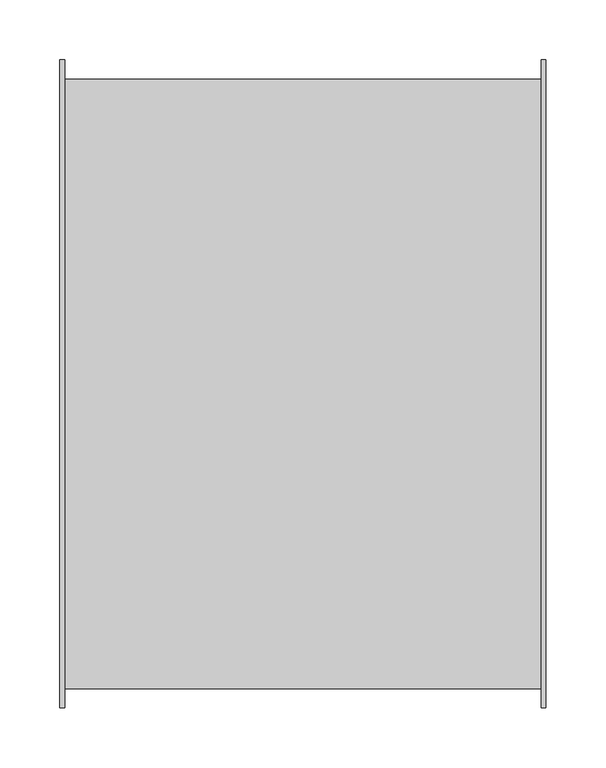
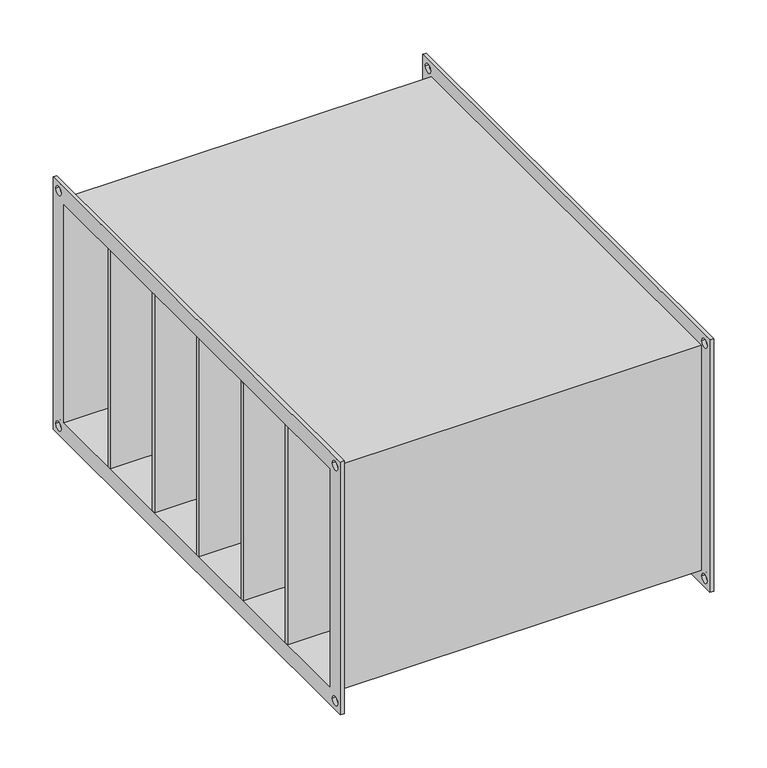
"""IFC4 building model written with IfcOpenShell, lengths in millimetres: damper geometry, СВ_ФильтрКарманныйУкороченный_КанальныйПрямоугольный_200-1000_SFPKU : SFPKU-500x250."""

import ifcopenshell
import ifcopenshell.guid

model = None  # the IFC model being written
_history = None  # IfcOwnerHistory: only IFC2X3 demands one
_inside = {}  # id of a spatial element -> (the spatial element, [elements in it])
_under = {}  # id of a project, library or spatial element -> (it, [spatial elements below it])
_declared = {}  # id of a project -> (the project, [libraries it declares])
_typed = {}  # id of a type object -> (the type object, [elements of that type])
_made_of = {}  # id of a material, layer set ... -> (it, [elements and type objects made of it])


def new_model(schema):
    """Start an empty IFC model of exactly this schema.

    Asked for "IFC4X3", IfcOpenShell would pick the latest addendum, in which some entities
    have other attributes; the version numbers below select the first issue.
    IFC2X3 requires an IfcOwnerHistory on every rooted entity: one is made here for all.
    """
    global model, _history
    if schema == "IFC4X3":
        model = ifcopenshell.file(schema_version=(4, 3, 0, 0))
    else:
        model = ifcopenshell.file(schema=schema)
    _inside.clear()
    _under.clear()
    _declared.clear()
    _typed.clear()
    _made_of.clear()
    _history = None
    if model.schema == "IFC2X3":
        org = make("IfcOrganization", Name="unknown")
        user = make(
            "IfcPersonAndOrganization",
            ThePerson=make("IfcPerson", FamilyName="unknown"),
            TheOrganization=org,
        )
        app = make(
            "IfcApplication",
            ApplicationDeveloper=org,
            Version="unknown",
            ApplicationFullName="unknown",
            ApplicationIdentifier="unknown",
        )
        _history = make(
            "IfcOwnerHistory",
            OwningUser=user,
            OwningApplication=app,
            ChangeAction="ADDED",
            CreationDate=0,
        )
    return model


def make(cls, **values):
    """One entity of the class cls with the attributes given. An attribute that is None is left unset."""
    return model.create_entity(
        cls, **{name: value for name, value in values.items() if value is not None}
    )


def rooted(cls, **values):
    """An entity with a GlobalId (a new one), such as an element, a storey or a relation."""
    return make(cls, GlobalId=ifcopenshell.guid.new(), OwnerHistory=_history, **values)


def si_unit(unit_type, name, prefix=None):
    """IfcSIUnit, for example si_unit("LENGTHUNIT", "METRE", prefix="MILLI")."""
    return make("IfcSIUnit", UnitType=unit_type, Prefix=prefix, Name=name)


def assignment(units):
    """IfcUnitAssignment: the units of a project."""
    return None if units is None else make("IfcUnitAssignment", Units=units)


def point(xyz):
    """IfcCartesianPoint."""
    return None if xyz is None else make("IfcCartesianPoint", Coordinates=xyz)


def direction(xyz):
    """IfcDirection."""
    return None if xyz is None else make("IfcDirection", DirectionRatios=xyz)


def frame(location, z_axis=None, x_axis=None):
    """IfcAxis2Placement3D, a coordinate frame: its origin and axes. An axis left out is left unset."""
    return make(
        "IfcAxis2Placement3D",
        Location=point(location),
        Axis=direction(z_axis),
        RefDirection=direction(x_axis),
    )


def origin():
    """The frame at (0, 0, 0) with its axes left unset."""
    return frame((0.0, 0.0, 0.0))


def place(relative_to, where):
    """IfcLocalPlacement: puts the frame where relative to a parent placement (None: the world)."""
    return make(
        "IfcLocalPlacement", PlacementRelTo=relative_to, RelativePlacement=where
    )


def context(
    kind, dimensions, precision=None, world=None, true_north=None, identifier=None
):
    """IfcGeometricRepresentationContext, for example the 3D "Model" context."""
    return make(
        "IfcGeometricRepresentationContext",
        ContextIdentifier=identifier,
        ContextType=kind,
        CoordinateSpaceDimension=dimensions,
        Precision=precision,
        WorldCoordinateSystem=world,
        TrueNorth=true_north,
    )


def project(units=None, contexts=None):
    """IfcProject with its units and contexts."""
    return rooted(
        "IfcProject",
        Name="project",
        RepresentationContexts=contexts,
        UnitsInContext=assignment(units),
    )


def spatial(cls, under=None, at=None, **own):
    """A site, building, storey or space (cls), placed at a placement, below another one or the project."""
    s = rooted(cls, ObjectPlacement=at, **own)
    if under is not None:
        _under.setdefault(under.id(), (under, []))[1].append(s)
    return s


def polyline(points):
    """IfcPolyline through the points."""
    return make("IfcPolyline", Points=[point(p) for p in points])


def circle_curve(where, radius):
    """IfcCircle in the frame where."""
    return make("IfcCircle", Position=where, Radius=radius)


def outline(outer, holes=None, kind="AREA"):
    """IfcArbitraryClosedProfileDef: a profile drawn as a closed curve; with holes, ...WithVoids."""
    if holes is None:
        return make("IfcArbitraryClosedProfileDef", ProfileType=kind, OuterCurve=outer)
    return make(
        "IfcArbitraryProfileDefWithVoids",
        ProfileType=kind,
        OuterCurve=outer,
        InnerCurves=holes,
    )


def extrude(swept, where, along, depth):
    """IfcExtrudedAreaSolid: the profile swept, set in the frame where, extruded along a direction by depth."""
    return make(
        "IfcExtrudedAreaSolid",
        SweptArea=swept,
        Position=where,
        ExtrudedDirection=direction(along),
        Depth=depth,
    )


def shape(context_of_items, identifier, shape_type, items):
    """IfcShapeRepresentation: the items that make up one representation, for example the "Body"."""
    return make(
        "IfcShapeRepresentation",
        ContextOfItems=context_of_items,
        RepresentationIdentifier=identifier,
        RepresentationType=shape_type,
        Items=items,
    )


def source(mapping_origin, context_of_items, identifier, shape_type, items):
    """IfcRepresentationMap: a shape defined once, which mapped items show again and again."""
    return make(
        "IfcRepresentationMap",
        MappingOrigin=mapping_origin,
        MappedRepresentation=shape(context_of_items, identifier, shape_type, items),
    )


def transform(
    local_origin,
    x_axis=None,
    y_axis=None,
    z_axis=None,
    scale=None,
    scale2=None,
    scale3=None,
    uniform=True,
):
    """IfcCartesianTransformationOperator3D, or its non-uniform kind. x_axis, y_axis, z_axis: its Axis1, 2, 3."""
    if uniform:
        return make(
            "IfcCartesianTransformationOperator3D",
            Axis1=direction(x_axis),
            Axis2=direction(y_axis),
            LocalOrigin=point(local_origin),
            Scale=scale,
            Axis3=direction(z_axis),
        )
    return make(
        "IfcCartesianTransformationOperator3DnonUniform",
        Axis1=direction(x_axis),
        Axis2=direction(y_axis),
        LocalOrigin=point(local_origin),
        Scale=scale,
        Axis3=direction(z_axis),
        Scale2=scale2,
        Scale3=scale3,
    )


def mapped(mapping_source, mapping_target):
    """IfcMappedItem: shows the shape of a source again, moved by a transform."""
    return make(
        "IfcMappedItem", MappingSource=mapping_source, MappingTarget=mapping_target
    )


def made_of(thing, what):
    """Note that an element or type object is made of a material, layer set ...; save() writes the relation."""
    if what is not None:
        _made_of.setdefault(what.id(), (what, []))[1].append(thing)
    return thing


def element(
    cls,
    number,
    at=None,
    inside=None,
    cuts=None,
    type_object=None,
    material=None,
    context=None,
    identifier="Body",
    shape_type=None,
    held_by="IfcProductDefinitionShape",
    body=None,
    shapes=None,
    **own,
):
    """One element of the class cls, such as IfcWall. Its Tag is "e" and its number.

    at: its placement. inside: the storey or other place that contains it. cuts: it is an
    opening in that element (IfcRelVoidsElement). A single representation is given by context,
    identifier, shape_type and body (its items); several are given by shapes. held_by: the class
    of the entity that holds the representations. save() writes the other relations.
    """
    e = rooted(cls, Tag="e%d" % number, ObjectPlacement=at, **own)
    if body is not None:
        shapes = [shape(context, identifier, shape_type, body)]
    if shapes is not None:
        e.Representation = make(held_by, Representations=shapes)
    if inside is not None:
        _inside.setdefault(inside.id(), (inside, []))[1].append(e)
    if cuts is not None:
        rooted(
            "IfcRelVoidsElement", RelatingBuildingElement=cuts, RelatedOpeningElement=e
        )
    if type_object is not None:
        _typed.setdefault(type_object.id(), (type_object, []))[1].append(e)
    return made_of(e, material)


def aggregate(whole, parts):
    """IfcRelAggregates: a whole, such as a stair, and the parts it consists of."""
    return rooted("IfcRelAggregates", RelatingObject=whole, RelatedObjects=parts)


def save(model, path):
    """Write the relations noted so far, then the file.

    IfcRelAggregates (storeys below a building ...), IfcRelContainedInSpatialStructure (elements
    in a storey), IfcRelDefinesByType, IfcRelAssociatesMaterial and IfcRelDeclares: one each for
    every whole, place, type object, material and project.
    """
    for whole, parts in _under.values():
        aggregate(whole, parts)
    for where, things in _inside.values():
        rooted(
            "IfcRelContainedInSpatialStructure",
            RelatedElements=things,
            RelatingStructure=where,
        )
    for kind, things in _typed.values():
        rooted("IfcRelDefinesByType", RelatedObjects=things, RelatingType=kind)
    for what, things in _made_of.values():
        rooted("IfcRelAssociatesMaterial", RelatedObjects=things, RelatingMaterial=what)
    for by, libraries in _declared.values():
        rooted("IfcRelDeclares", RelatingContext=by, RelatedDefinitions=libraries)
    model.write(path)


def plane_surface(at):
    """IfcPlane: the flat surface through the origin of the frame at, square to its z axis."""
    return make("IfcPlane", Position=at)


def revolved_surface(curve, axis_point, axis_direction):
    """IfcSurfaceOfRevolution: the curve turned about the line through axis_point along axis_direction."""
    return make(
        "IfcSurfaceOfRevolution",
        SweptCurve=make("IfcArbitraryOpenProfileDef", ProfileType="CURVE", Curve=curve),
        AxisPosition=make("IfcAxis1Placement", Location=point(axis_point), Axis=direction(axis_direction)),
    )


def advanced_brep(points, edges, surfaces, faces):
    """IfcAdvancedBrep: a solid bounded by faces that lie on surfaces and meet in shared edges.

    An edge is (start, end): straight between two places in points (the first is 0);
    or (start, end, curve); or (start, end, curve, False) where it runs against its curve.
    A face is (place in surfaces, loops), or (place, loops, False) where it looks against
    its surface's normal. A loop lists edges by number (the first is 1), with a minus sign
    where the edge is run from its end to its start. The first loop is the outer one.
    """
    corners = [point(p) for p in points]
    vertices = [make("IfcVertexPoint", VertexGeometry=c) for c in corners]
    made = []
    for start, end, *more in edges:
        made.append(
            make(
                "IfcEdgeCurve",
                EdgeStart=vertices[start],
                EdgeEnd=vertices[end],
                EdgeGeometry=more[0] if more else make("IfcPolyline", Points=[corners[start], corners[end]]),
                SameSense=more[1] if len(more) > 1 else True,
            )
        )
    hull = []
    for where, loops, *sense in faces:
        bounds = []
        for j, loop in enumerate(loops):
            ring = [make("IfcOrientedEdge", EdgeElement=made[abs(k) - 1], Orientation=k > 0) for k in loop]
            bounds.append(
                make(
                    "IfcFaceOuterBound" if j == 0 else "IfcFaceBound",
                    Bound=make("IfcEdgeLoop", EdgeList=ring),
                    Orientation=True,
                )
            )
        hull.append(make("IfcAdvancedFace", Bounds=bounds, FaceSurface=surfaces[where], SameSense=sense[0] if sense else True))
    return make("IfcAdvancedBrep", Outer=make("IfcClosedShell", CfsFaces=hull))


def damper_a282fd26(model_context):
    return source(origin(), model_context, "Body", "SolidModel", [
        extrude(outline(polyline([(202.5, 166.6666667), (202.5, 162.6666667), (-202.5, 162.6666667), (-202.5, 166.6666667), (202.5, 166.6666667)])), frame((0.0, 0.0, -125.0), z_axis=(0.0, 0.0, 1.0), x_axis=(1.0, 0.0, 0.0)), (0.0, 0.0, 1.0), 250.0),
        extrude(outline(polyline([(202.5, 83.3333333), (202.5, 79.3333333), (-202.5, 79.3333333), (-202.5, 83.3333333), (202.5, 83.3333333)])), frame((0.0, 0.0, -125.0), z_axis=(0.0, 0.0, 1.0), x_axis=(1.0, 0.0, 0.0)), (0.0, 0.0, 1.0), 250.0),
        extrude(outline(polyline([(202.5, 0.0), (202.5, -4.0), (-202.5, -4.0), (-202.5, 0.0), (202.5, 0.0)])), frame((0.0, 0.0, -125.0), z_axis=(0.0, 0.0, 1.0), x_axis=(1.0, 0.0, 0.0)), (0.0, 0.0, 1.0), 250.0),
        extrude(outline(polyline([(202.5, -83.3333333), (202.5, -87.3333333), (-202.5, -87.3333333), (-202.5, -83.3333333), (202.5, -83.3333333)])), frame((0.0, 0.0, -125.0), z_axis=(0.0, 0.0, 1.0), x_axis=(1.0, 0.0, 0.0)), (0.0, 0.0, 1.0), 250.0),
        extrude(outline(polyline([(202.5, -166.6666667), (202.5, -170.6666667), (-202.5, -170.6666667), (-202.5, -166.6666667), (202.5, -166.6666667)])), frame((0.0, 0.0, -125.0), z_axis=(0.0, 0.0, 1.0), x_axis=(1.0, 0.0, 0.0)), (0.0, 0.0, 1.0), 250.0),
        advanced_brep(
        [(198.5, -254.0, 129.0), (-198.5, -254.0, 129.0), (-198.5, -254.0, -129.0), (198.5, -254.0, -129.0), (-198.5, 254.0, -129.0), (198.5, 254.0, -129.0), (-198.5, 254.0, 129.0), (198.5, 254.0, 129.0), (-202.5, -270.0, 145.0), (-202.5, 270.0, 145.0), (-202.5, 270.0, -145.0), (-202.5, -270.0, -145.0), (-202.5, -250.0, 125.0), (-202.5, -250.0, -125.0), (-202.5, 250.0, -125.0), (-202.5, 250.0, 125.0), (-202.5, 255.0, 135.0), (-202.5, 265.0, 135.0), (-202.5, -265.0, 135.0), (-202.5, -255.0, 135.0), (-202.5, -265.0, -135.0), (-202.5, -255.0, -135.0), (-202.5, 255.0, -135.0), (-202.5, 265.0, -135.0), (-198.5, -270.0, 145.0), (-198.5, -270.0, -145.0), (-198.5, 270.0, -145.0), (-198.5, 270.0, 145.0), (-198.5, 265.0, 135.0), (-198.5, 255.0, 135.0), (-198.5, -255.0, 135.0), (-198.5, -265.0, 135.0), (-198.5, -255.0, -135.0), (-198.5, -265.0, -135.0), (-198.5, 265.0, -135.0), (-198.5, 255.0, -135.0), (202.5, 250.0, 125.0), (202.5, -250.0, 125.0), (202.5, 250.0, -125.0), (202.5, -250.0, -125.0), (198.5, 270.0, 145.0), (198.5, 270.0, -145.0), (198.5, -270.0, -145.0), (198.5, -270.0, 145.0), (198.5, 255.0, 135.0), (198.5, 265.0, 135.0), (198.5, -265.0, 135.0), (198.5, -255.0, 135.0), (198.5, -265.0, -135.0), (198.5, -255.0, -135.0), (198.5, 255.0, -135.0), (198.5, 265.0, -135.0), (202.5, 270.0, 145.0), (202.5, -270.0, 145.0), (202.5, -270.0, -145.0), (202.5, 270.0, -145.0), (202.5, 265.0, 135.0), (202.5, 255.0, 135.0), (202.5, -255.0, 135.0), (202.5, -265.0, 135.0), (202.5, -255.0, -135.0), (202.5, -265.0, -135.0), (202.5, 265.0, -135.0), (202.5, 255.0, -135.0)],
        [
            (0, 1),
            (1, 2),
            (2, 3),
            (3, 0),
            (2, 4),
            (4, 5),
            (5, 3),
            (4, 6),
            (6, 7),
            (7, 5),
            (0, 7),
            (6, 1),
            (8, 9),
            (9, 10),
            (10, 11),
            (11, 8),
            (12, 13),
            (13, 14),
            (14, 15),
            (15, 12),
            (16, 17, circle_curve(frame((-202.5, 260.0, 135.0), z_axis=(1.0, 0.0, 0.0), x_axis=(0.0, 1.0, 0.0)), 5.0)),
            (17, 16, circle_curve(frame((-202.5, 260.0, 135.0), z_axis=(1.0, 0.0, 0.0), x_axis=(0.0, 1.0, 0.0)), 5.0)),
            (18, 19, circle_curve(frame((-202.5, -260.0, 135.0), z_axis=(1.0, 0.0, 0.0), x_axis=(0.0, 1.0, 0.0)), 5.0)),
            (19, 18, circle_curve(frame((-202.5, -260.0, 135.0), z_axis=(1.0, 0.0, 0.0), x_axis=(0.0, 1.0, 0.0)), 5.0)),
            (20, 21, circle_curve(frame((-202.5, -260.0, -135.0), z_axis=(1.0, 0.0, 0.0), x_axis=(0.0, 1.0, 0.0)), 5.0)),
            (21, 20, circle_curve(frame((-202.5, -260.0, -135.0), z_axis=(1.0, 0.0, 0.0), x_axis=(0.0, 1.0, 0.0)), 5.0)),
            (22, 23, circle_curve(frame((-202.5, 260.0, -135.0), z_axis=(1.0, 0.0, 0.0), x_axis=(0.0, 1.0, 0.0)), 5.0)),
            (23, 22, circle_curve(frame((-202.5, 260.0, -135.0), z_axis=(1.0, 0.0, 0.0), x_axis=(0.0, 1.0, 0.0)), 5.0)),
            (24, 25),
            (25, 26),
            (26, 27),
            (27, 24),
            (28, 29, circle_curve(frame((-198.5, 260.0, 135.0), z_axis=(-1.0, 0.0, 0.0), x_axis=(0.0, 1.0, 0.0)), 5.0)),
            (29, 28, circle_curve(frame((-198.5, 260.0, 135.0), z_axis=(-1.0, 0.0, 0.0), x_axis=(0.0, 1.0, 0.0)), 5.0)),
            (30, 31, circle_curve(frame((-198.5, -260.0, 135.0), z_axis=(-1.0, 0.0, 0.0), x_axis=(0.0, 1.0, 0.0)), 5.0)),
            (31, 30, circle_curve(frame((-198.5, -260.0, 135.0), z_axis=(-1.0, 0.0, 0.0), x_axis=(0.0, 1.0, 0.0)), 5.0)),
            (32, 33, circle_curve(frame((-198.5, -260.0, -135.0), z_axis=(-1.0, 0.0, 0.0), x_axis=(0.0, 1.0, 0.0)), 5.0)),
            (33, 32, circle_curve(frame((-198.5, -260.0, -135.0), z_axis=(-1.0, 0.0, 0.0), x_axis=(0.0, 1.0, 0.0)), 5.0)),
            (34, 35, circle_curve(frame((-198.5, 260.0, -135.0), z_axis=(-1.0, 0.0, 0.0), x_axis=(0.0, 1.0, 0.0)), 5.0)),
            (35, 34, circle_curve(frame((-198.5, 260.0, -135.0), z_axis=(-1.0, 0.0, 0.0), x_axis=(0.0, 1.0, 0.0)), 5.0)),
            (11, 25),
            (24, 8),
            (10, 26),
            (9, 27),
            (15, 36),
            (36, 37),
            (37, 12),
            (14, 38),
            (38, 36),
            (13, 39),
            (39, 38),
            (37, 39),
            (40, 41),
            (41, 42),
            (42, 43),
            (43, 40),
            (44, 45, circle_curve(frame((198.5, 260.0, 135.0), z_axis=(1.0, 0.0, 0.0), x_axis=(0.0, 1.0, 0.0)), 5.0)),
            (45, 44, circle_curve(frame((198.5, 260.0, 135.0), z_axis=(1.0, 0.0, 0.0), x_axis=(0.0, 1.0, 0.0)), 5.0)),
            (46, 47, circle_curve(frame((198.5, -260.0, 135.0), z_axis=(1.0, 0.0, 0.0), x_axis=(0.0, 1.0, 0.0)), 5.0)),
            (47, 46, circle_curve(frame((198.5, -260.0, 135.0), z_axis=(1.0, 0.0, 0.0), x_axis=(0.0, 1.0, 0.0)), 5.0)),
            (48, 49, circle_curve(frame((198.5, -260.0, -135.0), z_axis=(1.0, 0.0, 0.0), x_axis=(0.0, 1.0, 0.0)), 5.0)),
            (49, 48, circle_curve(frame((198.5, -260.0, -135.0), z_axis=(1.0, 0.0, 0.0), x_axis=(0.0, 1.0, 0.0)), 5.0)),
            (50, 51, circle_curve(frame((198.5, 260.0, -135.0), z_axis=(1.0, 0.0, 0.0), x_axis=(0.0, 1.0, 0.0)), 5.0)),
            (51, 50, circle_curve(frame((198.5, 260.0, -135.0), z_axis=(1.0, 0.0, 0.0), x_axis=(0.0, 1.0, 0.0)), 5.0)),
            (52, 53),
            (53, 54),
            (54, 55),
            (55, 52),
            (56, 57, circle_curve(frame((202.5, 260.0, 135.0), z_axis=(-1.0, 0.0, 0.0), x_axis=(0.0, 1.0, 0.0)), 5.0)),
            (57, 56, circle_curve(frame((202.5, 260.0, 135.0), z_axis=(-1.0, 0.0, 0.0), x_axis=(0.0, 1.0, 0.0)), 5.0)),
            (58, 59, circle_curve(frame((202.5, -260.0, 135.0), z_axis=(-1.0, 0.0, 0.0), x_axis=(0.0, 1.0, 0.0)), 5.0)),
            (59, 58, circle_curve(frame((202.5, -260.0, 135.0), z_axis=(-1.0, 0.0, 0.0), x_axis=(0.0, 1.0, 0.0)), 5.0)),
            (60, 61, circle_curve(frame((202.5, -260.0, -135.0), z_axis=(-1.0, 0.0, 0.0), x_axis=(0.0, 1.0, 0.0)), 5.0)),
            (61, 60, circle_curve(frame((202.5, -260.0, -135.0), z_axis=(-1.0, 0.0, 0.0), x_axis=(0.0, 1.0, 0.0)), 5.0)),
            (62, 63, circle_curve(frame((202.5, 260.0, -135.0), z_axis=(-1.0, 0.0, 0.0), x_axis=(0.0, 1.0, 0.0)), 5.0)),
            (63, 62, circle_curve(frame((202.5, 260.0, -135.0), z_axis=(-1.0, 0.0, 0.0), x_axis=(0.0, 1.0, 0.0)), 5.0)),
            (43, 53),
            (52, 40),
            (42, 54),
            (41, 55),
            (16, 29),
            (28, 17),
            (44, 57),
            (56, 45),
            (18, 31),
            (30, 19),
            (46, 59),
            (58, 47),
            (20, 33),
            (32, 21),
            (48, 61),
            (60, 49),
            (22, 35),
            (34, 23),
            (50, 63),
            (62, 51),
        ],
        [
            plane_surface(frame((198.5, -254.0, 129.0), z_axis=(0.0, -1.0, 0.0), x_axis=(-1.0, 0.0, 0.0))),
            plane_surface(frame((198.5, -254.0, -129.0), z_axis=(0.0, 0.0, -1.0), x_axis=(-1.0, 0.0, 0.0))),
            plane_surface(frame((198.5, 254.0, -129.0), z_axis=(0.0, 1.0, 0.0), x_axis=(-1.0, 0.0, 0.0))),
            plane_surface(frame((198.5, 254.0, 129.0), z_axis=(0.0, 0.0, 1.0), x_axis=(-1.0, 0.0, 0.0))),
            plane_surface(frame((-202.5, -270.0, 145.0), z_axis=(-1.0, 0.0, 0.0), x_axis=(0.0, 0.0, 1.0))),
            plane_surface(frame((-198.5, -270.0, 145.0), z_axis=(1.0, 0.0, 0.0), x_axis=(0.0, 0.0, -1.0))),
            plane_surface(frame((-198.5, -270.0, 145.0), z_axis=(0.0, -1.0, 0.0), x_axis=(-1.0, 0.0, 0.0))),
            plane_surface(frame((-198.5, -270.0, -145.0), z_axis=(0.0, 0.0, -1.0), x_axis=(-1.0, 0.0, 0.0))),
            plane_surface(frame((-198.5, 270.0, -145.0), z_axis=(0.0, 1.0, 0.0), x_axis=(-1.0, 0.0, 0.0))),
            plane_surface(frame((-198.5, 270.0, 145.0), z_axis=(0.0, 0.0, 1.0), x_axis=(-1.0, 0.0, 0.0))),
            plane_surface(frame((-198.5, -250.0, 125.0), z_axis=(0.0, 0.0, -1.0), x_axis=(-1.0, 0.0, 0.0))),
            plane_surface(frame((-198.5, 250.0, 125.0), z_axis=(0.0, -1.0, 0.0), x_axis=(-1.0, 0.0, 0.0))),
            plane_surface(frame((-198.5, 250.0, -125.0), z_axis=(0.0, 0.0, 1.0), x_axis=(-1.0, 0.0, 0.0))),
            plane_surface(frame((-198.5, -250.0, -125.0), z_axis=(0.0, 1.0, 0.0), x_axis=(-1.0, 0.0, 0.0))),
            plane_surface(frame((198.5, 250.0, -125.0), z_axis=(-1.0, 0.0, 0.0), x_axis=(0.0, 0.0, 1.0))),
            plane_surface(frame((202.5, 250.0, -125.0), z_axis=(1.0, 0.0, 0.0), x_axis=(0.0, 0.0, -1.0))),
            plane_surface(frame((202.5, 270.0, 145.0), z_axis=(0.0, 0.0, 1.0), x_axis=(-1.0, 0.0, 0.0))),
            plane_surface(frame((202.5, -270.0, 145.0), z_axis=(0.0, -1.0, 0.0), x_axis=(-1.0, 0.0, 0.0))),
            plane_surface(frame((202.5, -270.0, -145.0), z_axis=(0.0, 0.0, -1.0), x_axis=(-1.0, 0.0, 0.0))),
            plane_surface(frame((202.5, 270.0, -145.0), z_axis=(0.0, 1.0, 0.0), x_axis=(-1.0, 0.0, 0.0))),
            revolved_surface(polyline([(-198.5, 265.0, 135.0), (-202.5, 265.0, 135.0)]), (-202.5, 260.0, 135.0), (1.0, 0.0, 0.0)),
            revolved_surface(polyline([(202.5, 265.0, 135.0), (198.5, 265.0, 135.0)]), (-202.5, 260.0, 135.0), (1.0, 0.0, 0.0)),
            revolved_surface(polyline([(-198.5, -255.0, 135.0), (-202.5, -255.0, 135.0)]), (0.0, -260.0, 135.0), (1.0, 0.0, 0.0)),
            revolved_surface(polyline([(202.5, -255.0, 135.0), (198.5, -255.0, 135.0)]), (0.0, -260.0, 135.0), (1.0, 0.0, 0.0)),
            revolved_surface(polyline([(-198.5, -255.0, -135.0), (-202.5, -255.0, -135.0)]), (0.0, -260.0, -135.0), (1.0, 0.0, 0.0)),
            revolved_surface(polyline([(202.5, -255.0, -135.0), (198.5, -255.0, -135.0)]), (0.0, -260.0, -135.0), (1.0, 0.0, 0.0)),
            revolved_surface(polyline([(-198.5, 265.0, -135.0), (-202.5, 265.0, -135.0)]), (0.0, 260.0, -135.0), (1.0, 0.0, 0.0)),
            revolved_surface(polyline([(202.5, 265.0, -135.0), (198.5, 265.0, -135.0)]), (0.0, 260.0, -135.0), (1.0, 0.0, 0.0)),
        ],
        [
            (0, [[1, 2, 3, 4]]),
            (1, [[-3, 5, 6, 7]]),
            (2, [[-6, 8, 9, 10]]),
            (3, [[-1, 11, -9, 12]]),
            (4, [[13, 14, 15, 16], [17, 18, 19, 20], [21, 22], [23, 24], [25, 26], [27, 28]]),
            (5, [[29, 30, 31, 32], [-2, -12, -8, -5], [33, 34], [35, 36], [37, 38], [39, 40]]),
            (6, [[-16, 41, -29, 42]]),
            (7, [[-15, 43, -30, -41]]),
            (8, [[-14, 44, -31, -43]]),
            (9, [[-13, -42, -32, -44]]),
            (10, [[-20, 45, 46, 47]]),
            (11, [[-45, -19, 48, 49]]),
            (12, [[-48, -18, 50, 51]]),
            (13, [[-50, -17, -47, 52]]),
            (14, [[53, 54, 55, 56], [-4, -7, -10, -11], [57, 58], [59, 60], [61, 62], [63, 64]]),
            (15, [[65, 66, 67, 68], [-49, -51, -52, -46], [69, 70], [71, 72], [73, 74], [75, 76]]),
            (16, [[-56, 77, -65, 78]]),
            (17, [[-55, 79, -66, -77]]),
            (18, [[-54, 80, -67, -79]]),
            (19, [[-53, -78, -68, -80]]),
            (20, [[81, -33, 82, -21]]),
            (21, [[83, -69, 84, -57]]),
            (20, [[-81, -22, -82, -34]]),
            (21, [[-83, -58, -84, -70]]),
            (22, [[85, -35, 86, -23]]),
            (23, [[87, -71, 88, -59]]),
            (22, [[-85, -24, -86, -36]]),
            (23, [[-87, -60, -88, -72]]),
            (24, [[89, -37, 90, -25]]),
            (25, [[91, -73, 92, -61]]),
            (24, [[-89, -26, -90, -38]]),
            (25, [[-91, -62, -92, -74]]),
            (26, [[93, -39, 94, -27]]),
            (27, [[95, -75, 96, -63]]),
            (26, [[-93, -28, -94, -40]]),
            (27, [[-95, -64, -96, -76]]),
        ],
    ),
    ])


if __name__ == "__main__":
    model = new_model("IFC4")
    model_context = context("Model", 3, world=origin())
    ifc_project = project(units=[si_unit("LENGTHUNIT", "METRE", prefix="MILLI")], contexts=[model_context])
    site = spatial("IfcSite", under=ifc_project)
    building = spatial("IfcBuilding", under=site)
    placement = place(None, origin())
    damper_shape = damper_a282fd26(model_context)
    element("IfcDamper", 1, ObjectType="СВ_ФильтрКарманныйУкороченный_КанальныйПрямоугольный_200-1000_SFPKU : SFPKU-500x250", at=placement, inside=building, context=model_context, shape_type="MappedRepresentation", body=[
        mapped(damper_shape, transform((0.0, 0.0, 0.0), x_axis=(1.0, 0.0, 0.0), y_axis=(0.0, 1.0, 0.0), z_axis=(0.0, 0.0, 1.0))),
    ])
    save(model, "model.ifc")
